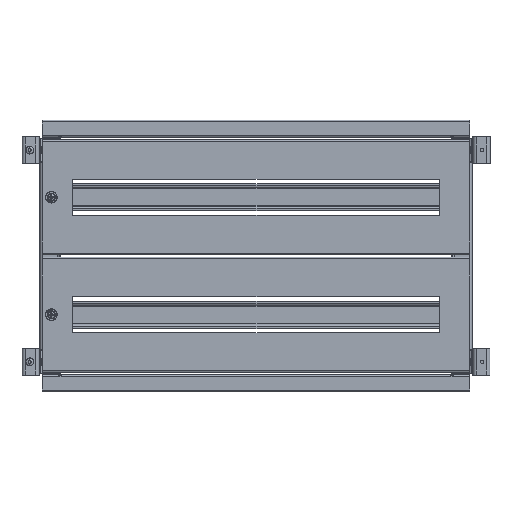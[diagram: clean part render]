
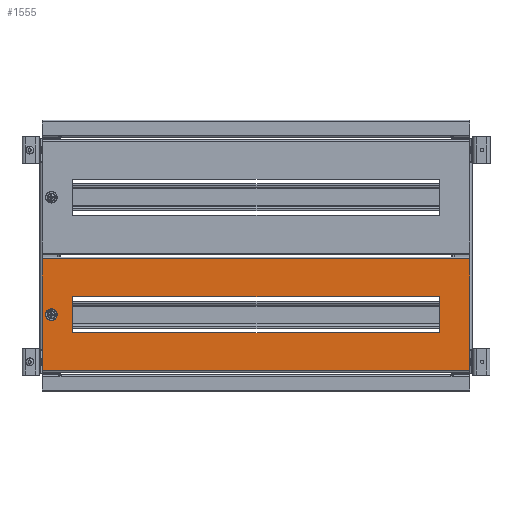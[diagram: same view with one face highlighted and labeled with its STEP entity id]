
A CAD part, top view. The second image highlights one B-rep face of the part: STEP entity #1555.
In plain terms, the highlighted planar face has unit normal (0, 0, 1).
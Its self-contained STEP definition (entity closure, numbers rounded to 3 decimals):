
#70 = CARTESIAN_POINT ( 'NONE',  ( -256.55, 0., 0. ) ) ;
#321 = CARTESIAN_POINT ( 'NONE',  ( -272.5, -73.5, 0. ) ) ;
#554 = EDGE_CURVE ( 'NONE', #12681, #5431, #9395, .T. ) ;
#754 = EDGE_LOOP ( 'NONE', ( #10051, #10371, #14484, #12778 ) ) ;
#1555 = ADVANCED_FACE ( 'NONE', ( #6307, #3551, #3729 ), #2183, .F. ) ;
#1697 = CARTESIAN_POINT ( 'NONE',  ( 272.5, -71.3, 0. ) ) ;
#1880 = EDGE_CURVE ( 'NONE', #10750, #2619, #15698, .T. ) ;
#2171 = DIRECTION ( 'NONE',  ( -1., 0., 0. ) ) ;
#2183 = PLANE ( 'NONE',  #12895 ) ;
#2619 = VERTEX_POINT ( 'NONE', #7904 ) ;
#2671 = ORIENTED_EDGE ( 'NONE', *, *, #16234, .F. ) ;
#2706 = LINE ( 'NONE', #9940, #8902 ) ;
#2766 = DIRECTION ( 'NONE',  ( 1., 0., 0. ) ) ;
#2789 = CARTESIAN_POINT ( 'NONE',  ( 272.5, 71.3, 0. ) ) ;
#2829 = LINE ( 'NONE', #13857, #17127 ) ;
#3090 = DIRECTION ( 'NONE',  ( 0., 1., 0. ) ) ;
#3349 = VECTOR ( 'NONE', #2171, 1000. ) ;
#3436 = LINE ( 'NONE', #321, #14198 ) ;
#3551 = FACE_BOUND ( 'NONE', #17177, .T. ) ;
#3729 = FACE_OUTER_BOUND ( 'NONE', #754, .T. ) ;
#4233 = CARTESIAN_POINT ( 'NONE',  ( -234., -23., 0. ) ) ;
#4355 = VECTOR ( 'NONE', #17496, 1000. ) ;
#4598 = ORIENTED_EDGE ( 'NONE', *, *, #6391, .F. ) ;
#4622 = EDGE_CURVE ( 'NONE', #5821, #10750, #14158, .T. ) ;
#5163 = LINE ( 'NONE', #9107, #4355 ) ;
#5327 = EDGE_CURVE ( 'NONE', #2619, #8217, #13376, .T. ) ;
#5431 = VERTEX_POINT ( 'NONE', #70 ) ;
#5821 = VERTEX_POINT ( 'NONE', #16251 ) ;
#5863 = CARTESIAN_POINT ( 'NONE',  ( -272.5, -71.3, 0. ) ) ;
#5974 = VECTOR ( 'NONE', #8898, 1000. ) ;
#6212 = EDGE_CURVE ( 'NONE', #8217, #5821, #3436, .T. ) ;
#6307 = FACE_BOUND ( 'NONE', #12345, .T. ) ;
#6350 = CARTESIAN_POINT ( 'NONE',  ( 234., 23., 0. ) ) ;
#6391 = EDGE_CURVE ( 'NONE', #5431, #12681, #15975, .T. ) ;
#6523 = EDGE_CURVE ( 'NONE', #15649, #18121, #2706, .T. ) ;
#6732 = DIRECTION ( 'NONE',  ( -1., 0., 0. ) ) ;
#6805 = CARTESIAN_POINT ( 'NONE',  ( -272.5, 71.3, 0. ) ) ;
#7193 = CARTESIAN_POINT ( 'NONE',  ( -265.55, 0., 0. ) ) ;
#7860 = CARTESIAN_POINT ( 'NONE',  ( 0., 0., 0. ) ) ;
#7904 = CARTESIAN_POINT ( 'NONE',  ( 272.5, 71.3, 0. ) ) ;
#8169 = EDGE_CURVE ( 'NONE', #18121, #8226, #5163, .T. ) ;
#8217 = VERTEX_POINT ( 'NONE', #6805 ) ;
#8226 = VERTEX_POINT ( 'NONE', #16582 ) ;
#8231 = CARTESIAN_POINT ( 'NONE',  ( -234., 23., 0. ) ) ;
#8898 = DIRECTION ( 'NONE',  ( 1., 0., 0. ) ) ;
#8902 = VECTOR ( 'NONE', #6732, 1000. ) ;
#9088 = DIRECTION ( 'NONE',  ( 1., 0., 0. ) ) ;
#9107 = CARTESIAN_POINT ( 'NONE',  ( -234., -23., 0. ) ) ;
#9127 = CARTESIAN_POINT ( 'NONE',  ( -261.05, 0., 0. ) ) ;
#9395 = CIRCLE ( 'NONE', #9985, 4.5 ) ;
#9492 = AXIS2_PLACEMENT_3D ( 'NONE', #9127, #14758, #17700 ) ;
#9549 = LINE ( 'NONE', #4233, #13574 ) ;
#9940 = CARTESIAN_POINT ( 'NONE',  ( -234., 23., 0. ) ) ;
#9985 = AXIS2_PLACEMENT_3D ( 'NONE', #13149, #17659, #9088 ) ;
#10051 = ORIENTED_EDGE ( 'NONE', *, *, #4622, .T. ) ;
#10371 = ORIENTED_EDGE ( 'NONE', *, *, #1880, .T. ) ;
#10750 = VERTEX_POINT ( 'NONE', #1697 ) ;
#11166 = CARTESIAN_POINT ( 'NONE',  ( 234., -23., 0. ) ) ;
#11632 = ORIENTED_EDGE ( 'NONE', *, *, #554, .F. ) ;
#12345 = EDGE_LOOP ( 'NONE', ( #17050, #15688, #2671, #17328 ) ) ;
#12681 = VERTEX_POINT ( 'NONE', #7193 ) ;
#12778 = ORIENTED_EDGE ( 'NONE', *, *, #6212, .T. ) ;
#12895 = AXIS2_PLACEMENT_3D ( 'NONE', #7860, #14689, #13204 ) ;
#13149 = CARTESIAN_POINT ( 'NONE',  ( -261.05, 0., 0. ) ) ;
#13204 = DIRECTION ( 'NONE',  ( -1., 0., 0. ) ) ;
#13376 = LINE ( 'NONE', #2789, #3349 ) ;
#13574 = VECTOR ( 'NONE', #2766, 1000. ) ;
#13857 = CARTESIAN_POINT ( 'NONE',  ( 234., -23., 0. ) ) ;
#14095 = VECTOR ( 'NONE', #3090, 1000. ) ;
#14158 = LINE ( 'NONE', #5863, #5974 ) ;
#14198 = VECTOR ( 'NONE', #15696, 1000. ) ;
#14398 = CARTESIAN_POINT ( 'NONE',  ( 272.5, -73.5, 0. ) ) ;
#14484 = ORIENTED_EDGE ( 'NONE', *, *, #5327, .T. ) ;
#14689 = DIRECTION ( 'NONE',  ( 0., 0., -1. ) ) ;
#14758 = DIRECTION ( 'NONE',  ( 0., 0., 1. ) ) ;
#15067 = DIRECTION ( 'NONE',  ( 0., 1., 0. ) ) ;
#15289 = VERTEX_POINT ( 'NONE', #11166 ) ;
#15649 = VERTEX_POINT ( 'NONE', #6350 ) ;
#15688 = ORIENTED_EDGE ( 'NONE', *, *, #16745, .F. ) ;
#15696 = DIRECTION ( 'NONE',  ( 0., -1., 0. ) ) ;
#15698 = LINE ( 'NONE', #14398, #14095 ) ;
#15975 = CIRCLE ( 'NONE', #9492, 4.5 ) ;
#16234 = EDGE_CURVE ( 'NONE', #8226, #15289, #9549, .T. ) ;
#16251 = CARTESIAN_POINT ( 'NONE',  ( -272.5, -71.3, 0. ) ) ;
#16582 = CARTESIAN_POINT ( 'NONE',  ( -234., -23., 0. ) ) ;
#16745 = EDGE_CURVE ( 'NONE', #15289, #15649, #2829, .T. ) ;
#17050 = ORIENTED_EDGE ( 'NONE', *, *, #6523, .F. ) ;
#17127 = VECTOR ( 'NONE', #15067, 1000. ) ;
#17177 = EDGE_LOOP ( 'NONE', ( #4598, #11632 ) ) ;
#17328 = ORIENTED_EDGE ( 'NONE', *, *, #8169, .F. ) ;
#17496 = DIRECTION ( 'NONE',  ( 0., -1., 0. ) ) ;
#17659 = DIRECTION ( 'NONE',  ( 0., 0., 1. ) ) ;
#17700 = DIRECTION ( 'NONE',  ( 1., 0., 0. ) ) ;
#18121 = VERTEX_POINT ( 'NONE', #8231 ) ;
